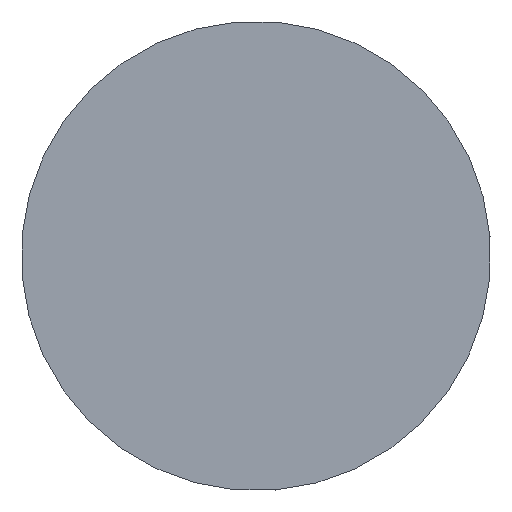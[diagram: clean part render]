
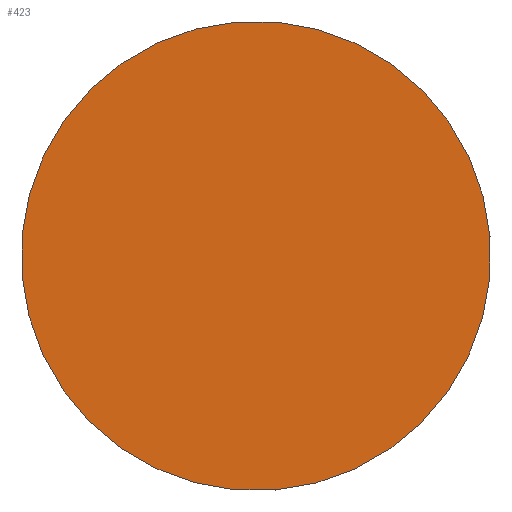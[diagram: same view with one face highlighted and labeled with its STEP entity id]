
A CAD part, left-side view. The second image highlights one B-rep face of the part: STEP entity #423.
In plain terms, the highlighted planar face has unit normal (-1, 0, 0).
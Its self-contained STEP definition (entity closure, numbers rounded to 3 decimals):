
#10 = CIRCLE ( 'NONE', #287, 3. ) ;
#19 = CARTESIAN_POINT ( 'NONE',  ( -50., 0., -3. ) ) ;
#43 = CARTESIAN_POINT ( 'NONE',  ( -50., 3., 0. ) ) ;
#56 = CARTESIAN_POINT ( 'NONE',  ( -50., 0., 0. ) ) ;
#58 = EDGE_CURVE ( 'NONE', #82, #334, #10, .T. ) ;
#70 = DIRECTION ( 'NONE',  ( 1., 0., 0. ) ) ;
#82 = VERTEX_POINT ( 'NONE', #19 ) ;
#152 = FACE_OUTER_BOUND ( 'NONE', #361, .T. ) ;
#183 = ORIENTED_EDGE ( 'NONE', *, *, #339, .F. ) ;
#214 = DIRECTION ( 'NONE',  ( 0., 0., -1. ) ) ;
#217 = CARTESIAN_POINT ( 'NONE',  ( -50., 0., 3. ) ) ;
#259 = DIRECTION ( 'NONE',  ( -1., 0., 0. ) ) ;
#262 = PLANE ( 'NONE',  #298 ) ;
#287 = AXIS2_PLACEMENT_3D ( 'NONE', #56, #310, #299 ) ;
#298 = AXIS2_PLACEMENT_3D ( 'NONE', #43, #259, #426 ) ;
#299 = DIRECTION ( 'NONE',  ( 0., 0., -1. ) ) ;
#310 = DIRECTION ( 'NONE',  ( 1., 0., 0. ) ) ;
#325 = ORIENTED_EDGE ( 'NONE', *, *, #58, .F. ) ;
#334 = VERTEX_POINT ( 'NONE', #217 ) ;
#339 = EDGE_CURVE ( 'NONE', #334, #82, #341, .T. ) ;
#341 = CIRCLE ( 'NONE', #375, 3. ) ;
#351 = CARTESIAN_POINT ( 'NONE',  ( -50., 0., 0. ) ) ;
#361 = EDGE_LOOP ( 'NONE', ( #325, #183 ) ) ;
#375 = AXIS2_PLACEMENT_3D ( 'NONE', #351, #70, #214 ) ;
#423 = ADVANCED_FACE ( 'NONE', ( #152 ), #262, .T. ) ;
#426 = DIRECTION ( 'NONE',  ( 0., 0., 1. ) ) ;
